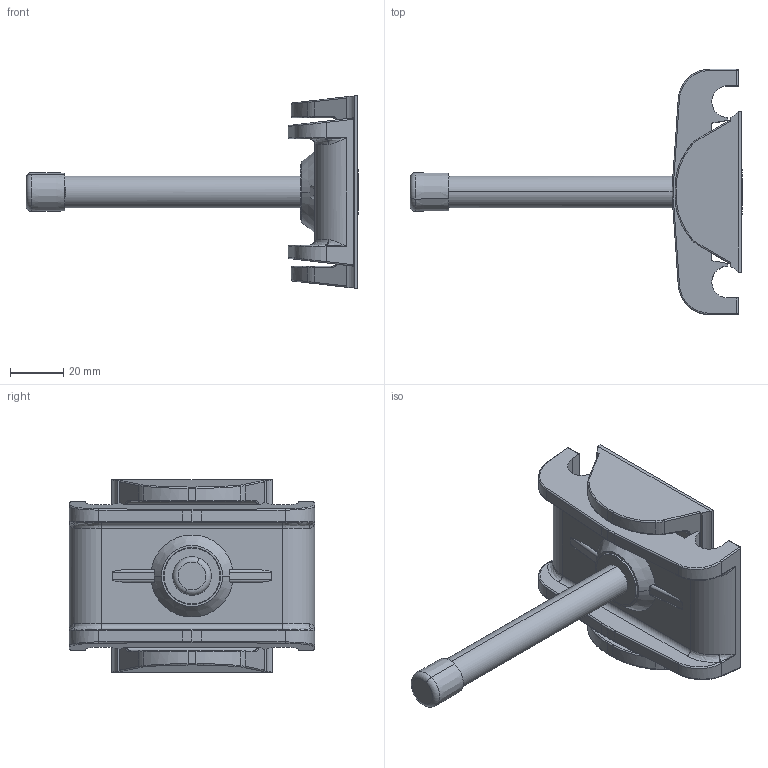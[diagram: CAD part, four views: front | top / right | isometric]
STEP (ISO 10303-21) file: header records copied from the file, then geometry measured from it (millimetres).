
FILE_DESCRIPTION (( 'STEP AP214' ), '1' );
FILE_NAME ('FABER - PSR 66 104CC.STEP', '2017-04-05T12:11:05', ( '' ), ( '' ), 'SwSTEP 2.0', 'SolidWorks 2016', '' );
FILE_SCHEMA (( 'AUTOMOTIVE_DESIGN' ));
Length unit declared in the file: millimetre
Products named in the file (3): EMBOUT-CC-D12; PSR_66-104; FABER - PSR 66 104CC
Assembly tree (2 placements, depth 2):
  FABER - PSR 66 104CC
    PSR_66-104
    EMBOUT-CC-D12
Bounding box: 125.16 x 92.5 x 72.5 mm (x, y, z)
Volume: 93825.5 mm3; surface area: 38113.3 mm2
Topology: 6 solids, 6 shells, 245 faces, 578 edges, 346 vertices
Faces by surface type: cylinder 86, plane 81, bspline 51, cone 25, torus 2
Entity records: 11251 total; most frequent: CARTESIAN_POINT 3206, ORIENTED_EDGE 1140, DIRECTION 1015, EDGE_CURVE 570, AXIS2_PLACEMENT_3D 381, VERTEX_POINT 346, EDGE_LOOP 262, UNCERTAINTY_MEASURE_WITH_UNIT 256
